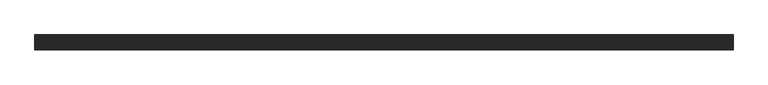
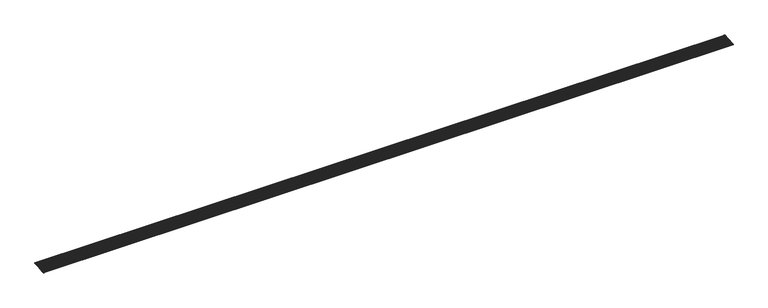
"""IFC4 building model written with IfcOpenShell, lengths in millimetres: slab geometry, ROSA GRES_001 (2 filas) : Piezas 001_Aqua_Blanco_Anti-Slip."""

from ifc_helpers import new_model, si_unit, point, frame, frame_2d, origin, place, context, project, spatial, polyline, circle_curve, trimmed, segment, composite_curve, outline, extrude, source, transform, mapped, element, save


def slab_7c7728e6(model_context):
    return source(origin(), model_context, "Body", "SweptSolid", [
        extrude(outline(polyline([(0.0, -118.9996), (0.0, 0.0), (11502.2095207, 0.0), (11502.2095207, -118.9996), (0.0, -118.9996)])), frame((11502.2095207, 124.0577627, 199.6968204), z_axis=(0.0, -0.08112705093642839, 0.9967037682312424), x_axis=(-1.0, 0.0, 0.0)), (0.0, 0.0, 1.0), 5.0),
        extrude(outline(polyline([(0.0, -118.9996), (0.0, 0.0), (11502.2095207, 0.0), (11502.2095207, -118.9996), (0.0, -118.9996)])), frame((11502.2095207, 248.6453351, 209.8376693), z_axis=(0.0, -0.08112705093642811, 0.9967037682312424), x_axis=(-1.0, 0.0, 0.0)), (0.0, 0.0, 1.0), 5.0),
        extrude(outline(composite_curve([segment(polyline([(242.2594772, 214.3344258), (123.6521274, 204.6803392), (123.4389282, 207.2996439)]), True, "CONTINUOUS"), segment(trimmed(circle_curve(frame_2d((122.9853249, 212.8724843)), 5.5912705), [point((123.4389282, 207.2996439))], [point((127.5160501, 209.5960785))], True, "CARTESIAN"), True, "CONTINUOUS"), segment(trimmed(circle_curve(frame_2d((131.4572785, 213.5620619)), 5.5912705), [point((127.5160501, 209.5960785))], [point((135.9880037, 210.2856561))], True, "CARTESIAN"), True, "CONTINUOUS"), segment(trimmed(circle_curve(frame_2d((139.929232, 214.2516395)), 5.5912705), [point((135.9880037, 210.2856561))], [point((144.4599572, 210.9752337))], True, "CARTESIAN"), True, "CONTINUOUS"), segment(trimmed(circle_curve(frame_2d((148.4011856, 214.9412171)), 5.5912705), [point((144.4599572, 210.9752337))], [point((152.9319108, 211.6648113))], True, "CARTESIAN"), True, "CONTINUOUS"), segment(trimmed(circle_curve(frame_2d((156.8731392, 215.6307947)), 5.5912705), [point((152.9319108, 211.6648113))], [point((161.4038643, 212.3543889))], True, "CARTESIAN"), True, "CONTINUOUS"), segment(trimmed(circle_curve(frame_2d((165.3450927, 216.3203723)), 5.5912705), [point((161.4038643, 212.3543889))], [point((169.8758179, 213.0439666))], True, "CARTESIAN"), True, "CONTINUOUS"), segment(trimmed(circle_curve(frame_2d((173.8170463, 217.00995)), 5.5912705), [point((169.8758179, 213.0439666))], [point((178.3477714, 213.7335442))], True, "CARTESIAN"), True, "CONTINUOUS"), segment(trimmed(circle_curve(frame_2d((182.2889998, 217.6995276)), 5.5912705), [point((178.3477714, 213.7335442))], [point((186.819725, 214.4231218))], True, "CARTESIAN"), True, "CONTINUOUS"), segment(trimmed(circle_curve(frame_2d((190.7609534, 218.3891052)), 5.5912705), [point((186.819725, 214.4231218))], [point((195.2916785, 215.1126994))], True, "CARTESIAN"), True, "CONTINUOUS"), segment(trimmed(circle_curve(frame_2d((199.2329069, 219.0786828)), 5.5912705), [point((195.2916785, 215.1126994))], [point((203.7636321, 215.802277))], True, "CARTESIAN"), True, "CONTINUOUS"), segment(trimmed(circle_curve(frame_2d((207.7048605, 219.7682604)), 5.5912705), [point((203.7636321, 215.802277))], [point((212.2355856, 216.4918546))], True, "CARTESIAN"), True, "CONTINUOUS"), segment(trimmed(circle_curve(frame_2d((216.176814, 220.457838)), 5.5912705), [point((212.2355856, 216.4918546))], [point((220.7075392, 217.1814322))], True, "CARTESIAN"), True, "CONTINUOUS"), segment(trimmed(circle_curve(frame_2d((224.6487676, 221.1474157)), 5.5912705), [point((220.7075392, 217.1814322))], [point((229.1794928, 217.8710099))], True, "CARTESIAN"), True, "CONTINUOUS"), segment(trimmed(circle_curve(frame_2d((233.1207211, 221.8369933)), 5.5912705), [point((229.1794928, 217.8710099))], [point((237.6514463, 218.5605875))], True, "CARTESIAN"), True, "CONTINUOUS"), segment(trimmed(circle_curve(frame_2d((241.5926747, 222.5265709)), 5.5912705), [point((237.6514463, 218.5605875))], [point((242.046278, 216.9537305))], True, "CARTESIAN"), True, "CONTINUOUS"), segment(polyline([(242.046278, 216.9537305), (242.2594772, 214.3344258)]), True, "CONTINUOUS")], self_intersect=False)), frame((0.0, 0.0, 0.0), z_axis=(1.0, 0.0, 0.0), x_axis=(0.0, 1.0, 0.0)), (0.0, 0.0, 1.0), 11502.2095207),
        extrude(outline(composite_curve([segment(polyline([(366.8470495, 224.4752747), (248.2396998, 214.8211881), (248.0265006, 217.4404928)]), True, "CONTINUOUS"), segment(trimmed(circle_curve(frame_2d((247.5728973, 223.0133332)), 5.5912705), [point((248.0265006, 217.4404928))], [point((252.1036225, 219.7369274))], True, "CARTESIAN"), True, "CONTINUOUS"), segment(trimmed(circle_curve(frame_2d((256.0448508, 223.7029108)), 5.5912705), [point((252.1036225, 219.7369274))], [point((260.575576, 220.426505))], True, "CARTESIAN"), True, "CONTINUOUS"), segment(trimmed(circle_curve(frame_2d((264.5168044, 224.3924884)), 5.5912705), [point((260.575576, 220.426505))], [point((269.0475296, 221.1160826))], True, "CARTESIAN"), True, "CONTINUOUS"), segment(trimmed(circle_curve(frame_2d((272.9887579, 225.082066)), 5.5912705), [point((269.0475296, 221.1160826))], [point((277.5194831, 221.8056602))], True, "CARTESIAN"), True, "CONTINUOUS"), segment(trimmed(circle_curve(frame_2d((281.4607115, 225.7716436)), 5.5912705), [point((277.5194831, 221.8056602))], [point((285.9914367, 222.4952379))], True, "CARTESIAN"), True, "CONTINUOUS"), segment(trimmed(circle_curve(frame_2d((289.9326651, 226.4612213)), 5.5912705), [point((285.9914367, 222.4952379))], [point((294.4633902, 223.1848155))], True, "CARTESIAN"), True, "CONTINUOUS"), segment(trimmed(circle_curve(frame_2d((298.4046186, 227.1507989)), 5.5912705), [point((294.4633902, 223.1848155))], [point((302.9353438, 223.8743931))], True, "CARTESIAN"), True, "CONTINUOUS"), segment(trimmed(circle_curve(frame_2d((306.8765722, 227.8403765)), 5.5912705), [point((302.9353438, 223.8743931))], [point((311.4072973, 224.5639707))], True, "CARTESIAN"), True, "CONTINUOUS"), segment(trimmed(circle_curve(frame_2d((315.3485257, 228.5299541)), 5.5912705), [point((311.4072973, 224.5639707))], [point((319.8792509, 225.2535483))], True, "CARTESIAN"), True, "CONTINUOUS"), segment(trimmed(circle_curve(frame_2d((323.8204793, 229.2195317)), 5.5912705), [point((319.8792509, 225.2535483))], [point((328.3512044, 225.9431259))], True, "CARTESIAN"), True, "CONTINUOUS"), segment(trimmed(circle_curve(frame_2d((332.2924328, 229.9091093)), 5.5912705), [point((328.3512044, 225.9431259))], [point((336.823158, 226.6327035))], True, "CARTESIAN"), True, "CONTINUOUS"), segment(trimmed(circle_curve(frame_2d((340.7643864, 230.5986869)), 5.5912705), [point((336.823158, 226.6327035))], [point((345.2951115, 227.3222812))], True, "CARTESIAN"), True, "CONTINUOUS"), segment(trimmed(circle_curve(frame_2d((349.2363399, 231.2882646)), 5.5912705), [point((345.2951115, 227.3222812))], [point((353.7670651, 228.0118588))], True, "CARTESIAN"), True, "CONTINUOUS"), segment(trimmed(circle_curve(frame_2d((357.7082935, 231.9778422)), 5.5912705), [point((353.7670651, 228.0118588))], [point((362.2390187, 228.7014364))], True, "CARTESIAN"), True, "CONTINUOUS"), segment(trimmed(circle_curve(frame_2d((366.180247, 232.6674198)), 5.5912705), [point((362.2390187, 228.7014364))], [point((366.6338503, 227.0945794))], True, "CARTESIAN"), True, "CONTINUOUS"), segment(polyline([(366.6338503, 227.0945794), (366.8470495, 224.4752747)]), True, "CONTINUOUS")], self_intersect=False)), frame((0.0, 0.0, 0.0), z_axis=(1.0, 0.0, 0.0), x_axis=(0.0, 1.0, 0.0)), (0.0, 0.0, 1.0), 11502.2095207),
    ])


if __name__ == "__main__":
    model = new_model("IFC4")
    model_context = context("Model", 3, world=origin())
    ifc_project = project(units=[si_unit("LENGTHUNIT", "METRE", prefix="MILLI")], contexts=[model_context])
    site = spatial("IfcSite", under=ifc_project)
    building = spatial("IfcBuilding", under=site)
    placement = place(None, origin())
    slab_shape = slab_7c7728e6(model_context)
    element("IfcSlab", 1, ObjectType="ROSA GRES_001 (2 filas) : Piezas 001_Aqua_Blanco_Anti-Slip", at=placement, inside=building, context=model_context, shape_type="MappedRepresentation", body=[
        mapped(slab_shape, transform((0.0, 0.0, 0.0), x_axis=(1.0, 0.0, 0.0), y_axis=(0.0, 1.0, 0.0), z_axis=(0.0, 0.0, 1.0))),
    ])
    save(model, "model.ifc")
